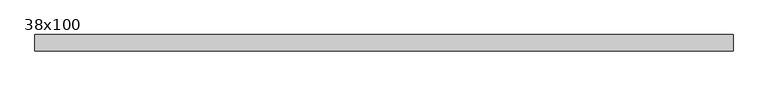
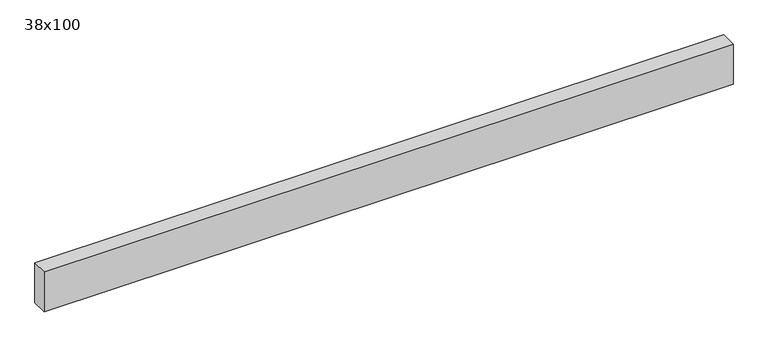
"""IFC4 building model written with IfcOpenShell, lengths in millimetres: beam geometry, Poutre - Bois de construction de dimensions courantes : 38x100."""

from ifc_helpers import new_model, si_unit, frame, origin, place, context, project, spatial, polyline, outline, extrude, source, transform, mapped, element, save


def beam_38x100_97065f30(model_context):
    return source(origin(), model_context, "Body", "SweptSolid", [
        extrude(outline(polyline([(799.5, 19.05), (799.5, -19.05), (-829.5, -19.05), (-829.5, 19.05), (799.5, 19.05)])), frame((0.0, 0.0, -50.0), z_axis=(0.0, 0.0, 1.0), x_axis=(1.0, 0.0, 0.0)), (0.0, 0.0, 1.0), 100.0),
    ])


if __name__ == "__main__":
    model = new_model("IFC4")
    model_context = context("Model", 3, world=origin())
    ifc_project = project(units=[si_unit("LENGTHUNIT", "METRE", prefix="MILLI")], contexts=[model_context])
    site = spatial("IfcSite", under=ifc_project)
    building = spatial("IfcBuilding", under=site)
    placement = place(None, origin())
    beam_38x100_shape = beam_38x100_97065f30(model_context)
    element("IfcBeam", 1, ObjectType="Poutre - Bois de construction de dimensions courantes : 38x100", at=placement, inside=building, context=model_context, shape_type="MappedRepresentation", body=[
        mapped(beam_38x100_shape, transform((0.0, 0.0, 0.0), x_axis=(1.0, 0.0, 0.0), y_axis=(0.0, 1.0, 0.0), z_axis=(0.0, 0.0, 1.0))),
    ])
    save(model, "model.ifc")
